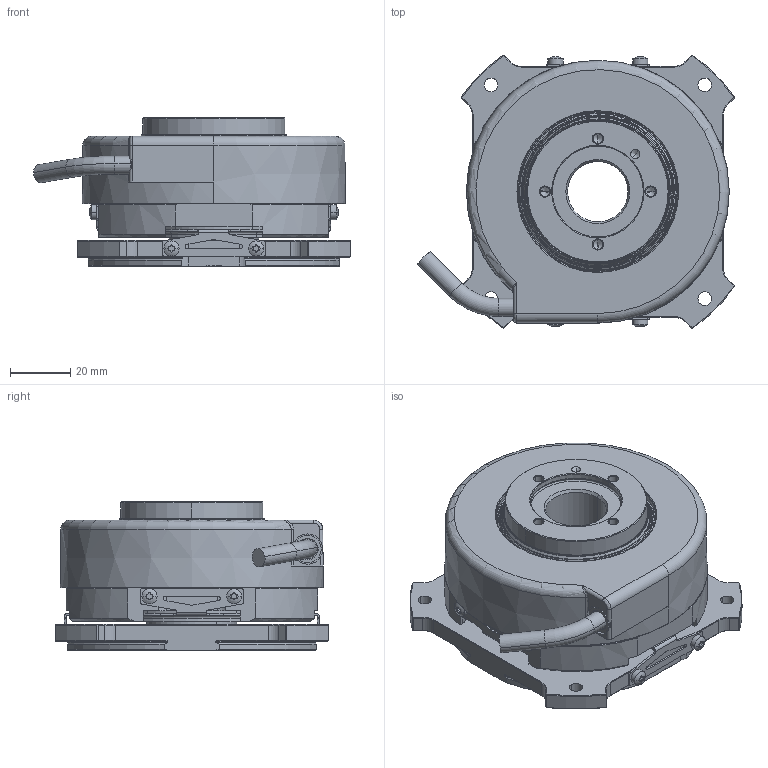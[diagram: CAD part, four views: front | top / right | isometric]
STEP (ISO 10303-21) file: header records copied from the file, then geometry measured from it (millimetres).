
FILE_DESCRIPTION(('Creo Elements/Direct Modeling STEP Export'),'2;1');
FILE_NAME('Encoder_H2D87i20-F.stp','2018-06-12T14:27:54',(''),(''),'PTC Creo Elements/Direct Modeling STEP processor for AP214 (Solid Model)','PTC Creo Elements/Direct Modeling 19.0E 27-Jun-2016 (C) Parametric Technology GmbH','');
FILE_SCHEMA(('AUTOMOTIVE_DESIGN { 1 0 10303 214 1 1 1 1 }'));
Length unit declared in the file: millimetre
Products named in the file (2): ENCODER_H-D87_eje_20
Assembly tree (1 placements, depth 2):
  ENCODER_H-D87_eje_20
    ENCODER_H-D87_eje_20
Bounding box: 104.79 x 90.49 x 49 mm (x, y, z)
Volume: 219942.5 mm3; surface area: 46829.5 mm2
Topology: 1 solids, 10 shells, 735 faces, 1988 edges, 1279 vertices
Faces by surface type: cylinder 316, plane 231, cone 99, torus 53, sphere 16, revolution 16, bspline 4
Entity records: 25415 total; most frequent: CARTESIAN_POINT 7454, ORIENTED_EDGE 3954, DIRECTION 3494, EDGE_CURVE 1977, AXIS2_PLACEMENT_3D 1318, VERTEX_POINT 1279, VECTOR 842, LINE 842
